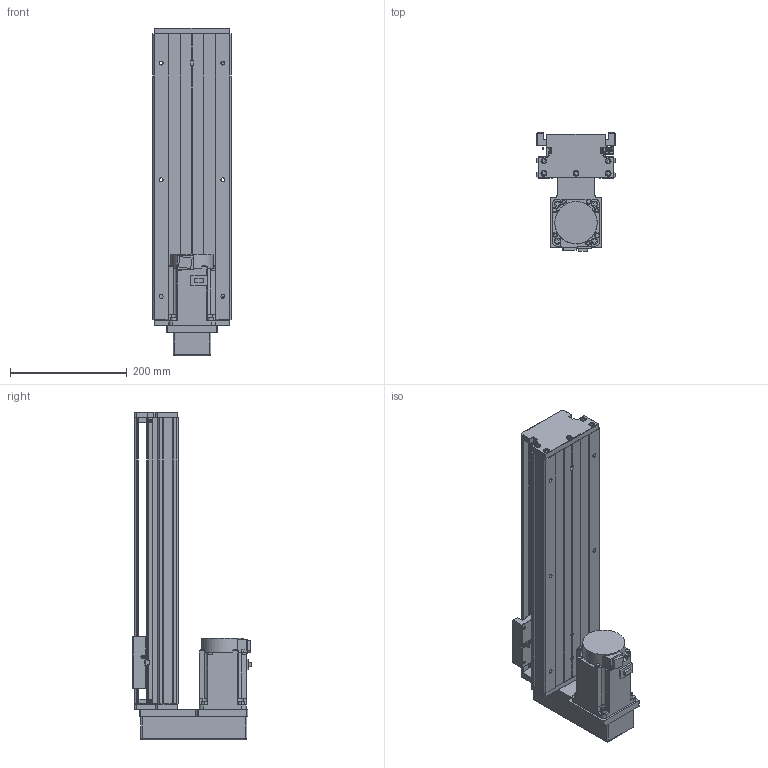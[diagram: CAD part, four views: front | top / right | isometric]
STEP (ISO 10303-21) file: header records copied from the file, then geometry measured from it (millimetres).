
FILE_DESCRIPTION (( 'STEP AP203' ), '1' );
FILE_NAME ('KTH130-350-BM-M75-C4.step', '2023-06-30T04:37:13', ( '微软用户' ), ( '微软中国' ), 'SwSTEP 2.0', 'SolidWorks 2020', '' );
FILE_SCHEMA (( 'CONFIG_CONTROL_DESIGN' ));
Length unit declared in the file: millimetre
Products named in the file (18): KTH130-004; CTHA60-016; KTH130-005; GBT 70.1-M3℅5; GB1155-6X6; GBT77-2000 M3×3; GBT70.1 M5℅16; す晦芛蹟隊 M3℅5; GBT 70.2-M3¡Á5_M3¡Á6; GBT 70.3-M3℅8; CTHA86-035; GTH14-001_350; CTHA60-017; hg-kn73j_-s100; KTH130-350-BM-M75-C4; KTH130-002_KTH130-002; EE_SX911P_R; CTHA86-015-3_CTHA86-015-4
Assembly tree (49 placements, depth 2):
  KTH130-350-BM-M75-C4
    GTH14-001_350
    KTH130-002_KTH130-002
    KTH130-004
    KTH130-005
    GB1155-6X6  x2
    GBT70.1 M5℅16  x10
    GBT 70.2-M3¡Á5_M3¡Á6  x4
    CTHA60-017  x3
    EE_SX911P_R  x3
    CTHA60-016  x2
    GBT 70.1-M3℅5  x6
    GBT77-2000 M3×3  x6
    す晦芛蹟隊 M3℅5  x2
    GBT 70.3-M3℅8  x4
    hg-kn73j_-s100
    CTHA86-015-3_CTHA86-015-4
    CTHA86-035
Bounding box: 135 x 202.8 x 562 mm (x, y, z)
Volume: 4187704.2 mm3; surface area: 606091.2 mm2
Topology: 52 solids, 52 shells, 2172 faces, 5268 edges, 3295 vertices
Faces by surface type: plane 1204, cylinder 614, cone 238, torus 100, sphere 16
Entity records: 39329 total; most frequent: CARTESIAN_POINT 6622, DIRECTION 6457, ORIENTED_EDGE 6040, EDGE_CURVE 3020, AXIS2_PLACEMENT_3D 2248, LINE 1961, VECTOR 1961, VERTEX_POINT 1929
